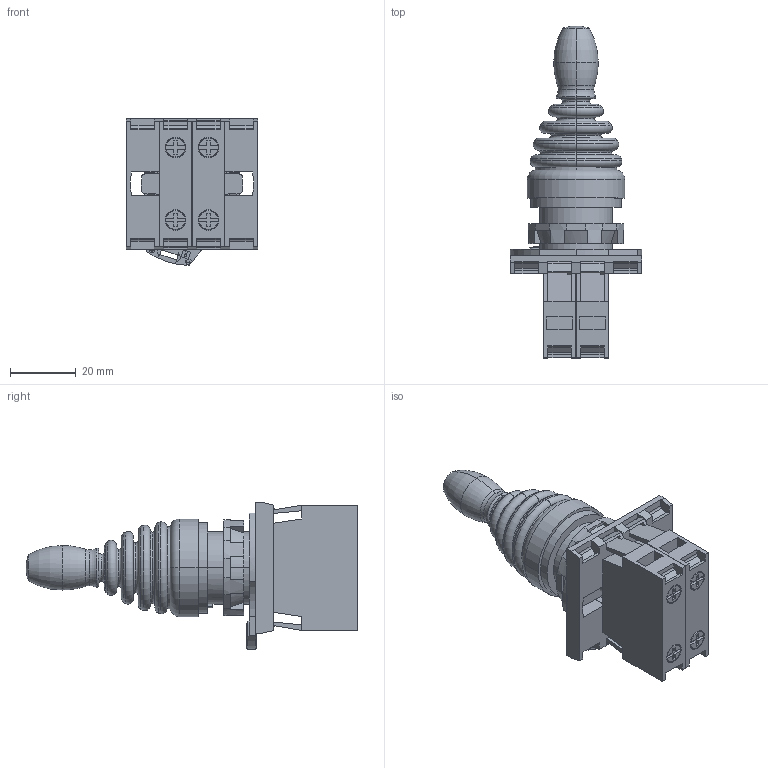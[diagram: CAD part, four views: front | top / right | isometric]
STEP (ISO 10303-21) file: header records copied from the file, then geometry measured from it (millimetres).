
FILE_DESCRIPTION (( 'STEP AP214' ), '1' );
FILE_NAME ('ZF_STEP_E2_AC-DXBC2600.step', '2016-08-01T07:41:47', ( 'utente' ), ( 'Microsoft' ), 'SwSTEP 2.0', 'SolidWorks 2014', '' );
FILE_SCHEMA (( 'AUTOMOTIVE_DESIGN' ));
Length unit declared in the file: millimetre
Products named in the file (6): ZF_STEP_E2_CP10GxV1_A10; ZF_STEP_E2_1BAC21; ZF_STEP_E2_xMA1xxZxx; ZF_STEP_VE_GFx2xA_21008; ZF_STEP_E2_xMA1xxxxx_Z; ZF_STEP_E2_AC-DXBC2600
Assembly tree (6 placements, depth 3):
  ZF_STEP_E2_AC-DXBC2600
    ZF_STEP_E2_xMA1xxZxx
      ZF_STEP_E2_xMA1xxxxx_Z
      ZF_STEP_VE_GFx2xA_21008
    ZF_STEP_E2_1BAC21
    ZF_STEP_E2_CP10GxV1_A10  x2
Bounding box: 39.8 x 100.7 x 44.58 mm (x, y, z)
Volume: 48308.7 mm3; surface area: 22137.1 mm2
Topology: 5 solids, 5 shells, 586 faces, 1576 edges, 1029 vertices
Faces by surface type: plane 403, cylinder 104, torus 64, cone 11, sphere 4
Entity records: 15332 total; most frequent: CARTESIAN_POINT 2678, DIRECTION 2589, ORIENTED_EDGE 2548, EDGE_CURVE 1274, LINE 881, VECTOR 881, AXIS2_PLACEMENT_3D 854, VERTEX_POINT 831
